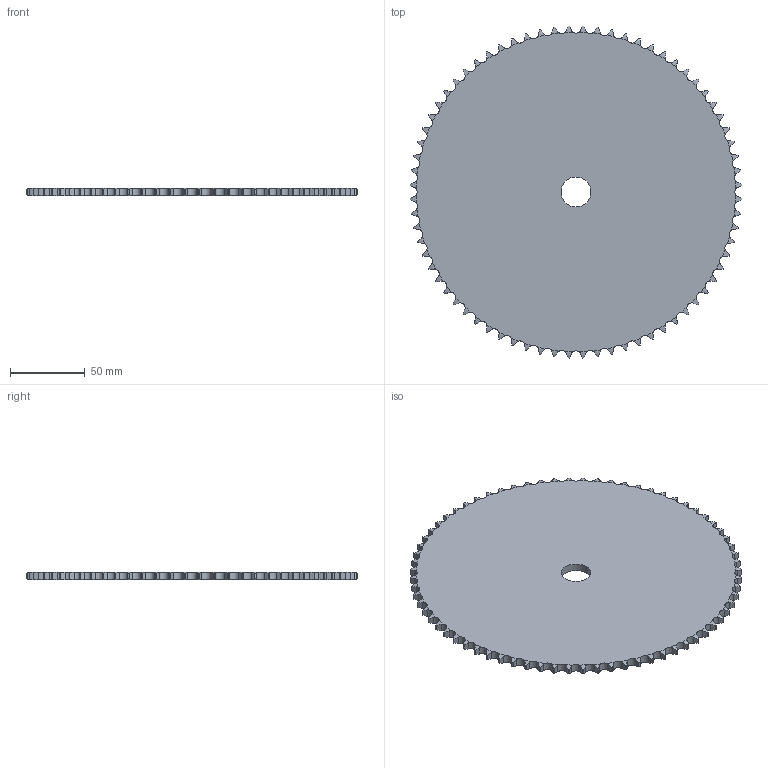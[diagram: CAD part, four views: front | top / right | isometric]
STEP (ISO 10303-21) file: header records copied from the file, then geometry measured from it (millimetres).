
FILE_DESCRIPTION((''),'2;1');
FILE_NAME('500-101-0072_PRT','2021-02-12T',('Brieden'),('Brieden'),'PRO/ENGINEER BY PARAMETRIC TECHNOLOGY CORPORATION, 2010160','PRO/ENGINEER BY PARAMETRIC TECHNOLOGY CORPORATION, 2010160','');
FILE_SCHEMA(('AUTOMOTIVE_DESIGN { 1 0 10303 214 1 1 1 1 }'));
Length unit declared in the file: millimetre
Products named in the file (1): 500-101-0072_PRT
Bounding box: 221.58 x 221.58 x 5.3 mm (x, y, z)
Volume: 191339.9 mm3; surface area: 77812.8 mm2
Topology: 1 solids, 1 shells, 436 faces, 1302 edges, 868 vertices
Faces by surface type: cylinder 290, torus 144, plane 2
Entity records: 21632 total; most frequent: CARTESIAN_POINT 6631, ORIENTED_EDGE 2604, DIRECTION 2034, PRESENTATION_STYLE_ASSIGNMENT 1303, STYLED_ITEM 1303, CURVE_STYLE 1302, EDGE_CURVE 1302, AXIS2_PLACEMENT_3D 872
